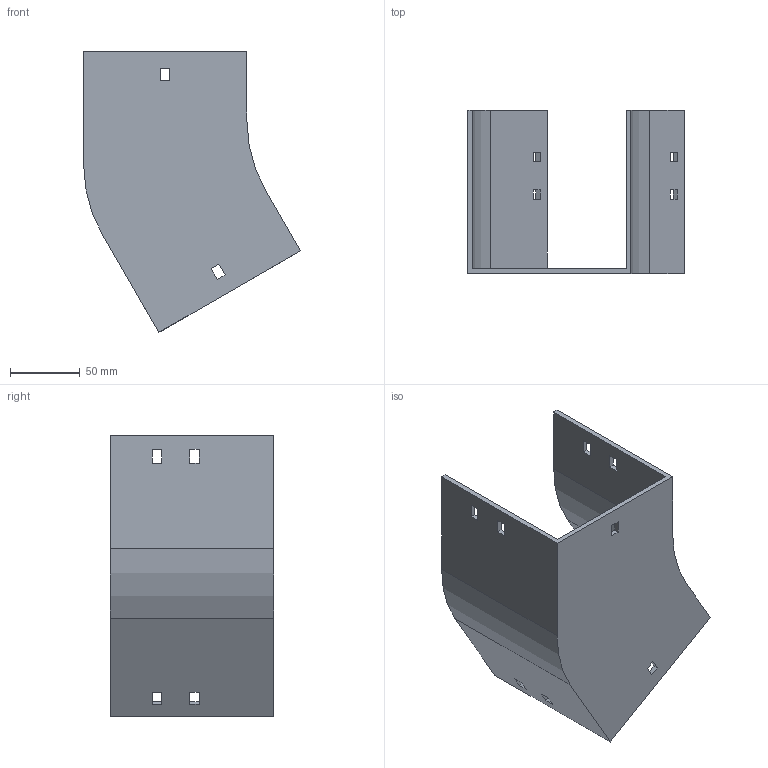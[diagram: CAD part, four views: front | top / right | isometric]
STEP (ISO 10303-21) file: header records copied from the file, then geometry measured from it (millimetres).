
FILE_DESCRIPTION (( 'STEP AP214' ), '1' );
FILE_NAME ('12B1J117.step', '2025-02-21T09:33:48', ( '' ), ( '' ), 'SwSTEP 2.0', 'SolidWorks 2023', '' );
FILE_SCHEMA (( 'AUTOMOTIVE_DESIGN' ));
Length unit declared in the file: millimetre
Products named in the file (1): 12B1J117
Bounding box: 155.9 x 117.5 x 202.05 mm (x, y, z)
Volume: 220449.6 mm3; surface area: 130845.6 mm2
Topology: 1 solids, 1 shells, 58 faces, 168 edges, 112 vertices
Faces by surface type: plane 54, cylinder 4
Entity records: 1943 total; most frequent: CARTESIAN_POINT 339, ORIENTED_EDGE 336, DIRECTION 294, EDGE_CURVE 168, VECTOR 160, LINE 160, VERTEX_POINT 112, EDGE_LOOP 78
